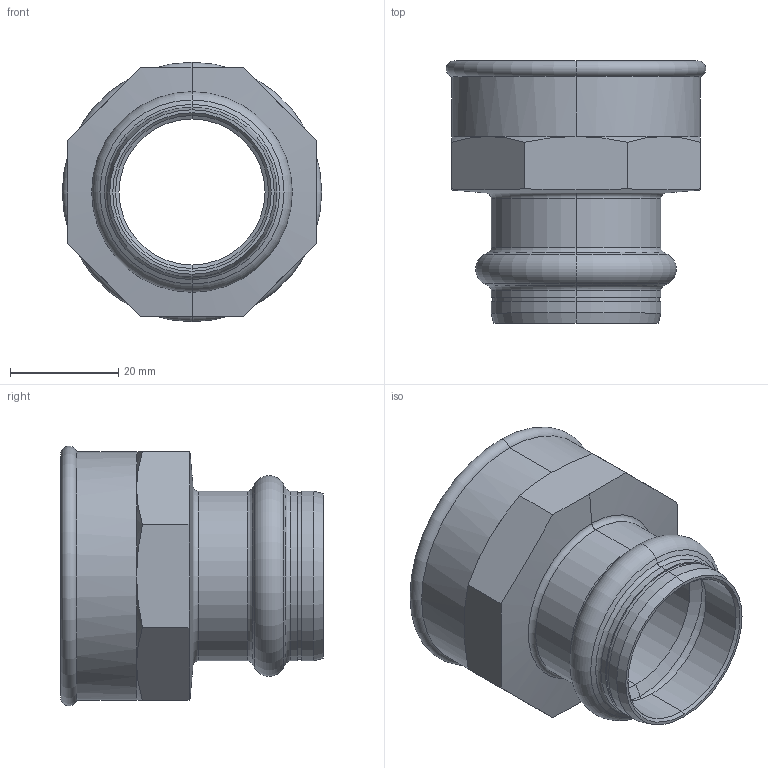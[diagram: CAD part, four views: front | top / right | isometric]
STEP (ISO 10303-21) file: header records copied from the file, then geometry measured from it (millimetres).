
FILE_DESCRIPTION (( 'STEP AP203' ), '1' );
FILE_NAME ('SP4270G Ø28 1 1-4.STEP', '2017-04-26T08:33:11', ( '' ), ( '' ), 'SwSTEP 2.0', 'SolidWorks 2016', '' );
FILE_SCHEMA (( 'CONFIG_CONTROL_DESIGN' ));
Length unit declared in the file: millimetre
Products named in the file (1): SP4270G Ø28 1 1-4
Bounding box: 47.99 x 48.5 x 47.99 mm (x, y, z)
Volume: 18131.8 mm3; surface area: 13899.2 mm2
Topology: 1 solids, 1 shells, 69 faces, 146 edges, 82 vertices
Faces by surface type: cone 26, cylinder 18, plane 13, torus 12
Entity records: 1991 total; most frequent: CARTESIAN_POINT 432, DIRECTION 336, ORIENTED_EDGE 292, EDGE_CURVE 146, AXIS2_PLACEMENT_3D 146, VERTEX_POINT 82, CIRCLE 76, EDGE_LOOP 74
